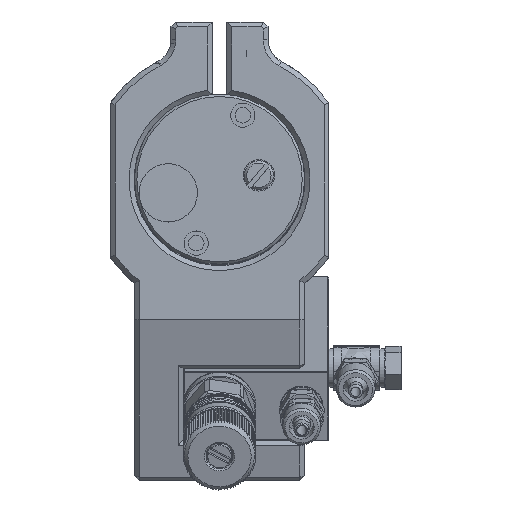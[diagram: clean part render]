
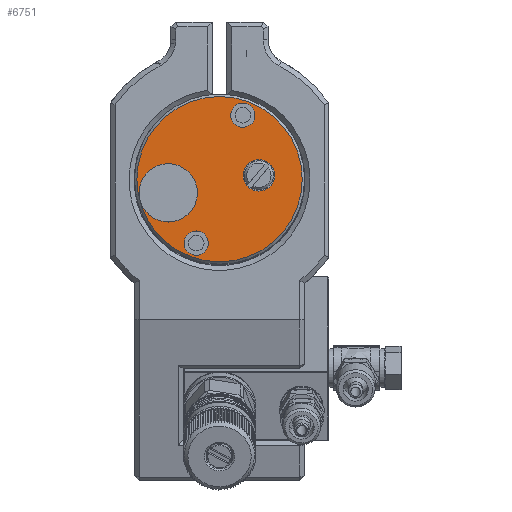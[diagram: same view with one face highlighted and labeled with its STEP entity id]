
A CAD part, top view. The second image highlights one B-rep face of the part: STEP entity #6751.
In plain terms, the highlighted planar face has unit normal (0, 0, 1).
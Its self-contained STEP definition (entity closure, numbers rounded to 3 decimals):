
#1207 = EDGE_CURVE ( 'NONE', #27649, #27649, #17318, .T. ) ;
#1462 = VERTEX_POINT ( 'NONE', #9512 ) ;
#4691 = DIRECTION ( 'NONE',  ( 1., 0., 0. ) ) ;
#4806 = DIRECTION ( 'NONE',  ( 1., 0., 0. ) ) ;
#5443 = EDGE_CURVE ( 'NONE', #1462, #1462, #46855, .T. ) ;
#5908 = AXIS2_PLACEMENT_3D ( 'NONE', #30937, #39014, #30689 ) ;
#6751 = ADVANCED_FACE ( 'NONE', ( #42481, #19304, #8200, #45070 ), #23576, .T. ) ;
#8081 = CARTESIAN_POINT ( 'NONE',  ( -79.067, 35.15, 120.533 ) ) ;
#8200 = FACE_BOUND ( 'NONE', #28008, .T. ) ;
#9128 = AXIS2_PLACEMENT_3D ( 'NONE', #48411, #16936, #48164 ) ;
#9512 = CARTESIAN_POINT ( 'NONE',  ( -76.567, 35.15, 120.533 ) ) ;
#10549 = DIRECTION ( 'NONE',  ( 0., 0., 1. ) ) ;
#12317 = EDGE_CURVE ( 'NONE', #27025, #27025, #30824, .T. ) ;
#12783 = DIRECTION ( 'NONE',  ( 1., 0., 0. ) ) ;
#15874 = DIRECTION ( 'NONE',  ( 0., 0., -1. ) ) ;
#16936 = DIRECTION ( 'NONE',  ( 0., 0., -1. ) ) ;
#17318 = CIRCLE ( 'NONE', #30961, 3.25 ) ;
#17433 = CARTESIAN_POINT ( 'NONE',  ( -83.856, 38.994, 120.533 ) ) ;
#17923 = EDGE_LOOP ( 'NONE', ( #44566 ) ) ;
#19304 = FACE_BOUND ( 'NONE', #21070, .T. ) ;
#19807 = CARTESIAN_POINT ( 'NONE',  ( -83.856, 21.994, 120.533 ) ) ;
#19863 = DIRECTION ( 'NONE',  ( 0., 0., -1. ) ) ;
#21070 = EDGE_LOOP ( 'NONE', ( #36478 ) ) ;
#23576 = PLANE ( 'NONE',  #24978 ) ;
#23599 = EDGE_CURVE ( 'NONE', #48918, #48918, #30807, .T. ) ;
#24978 = AXIS2_PLACEMENT_3D ( 'NONE', #19807, #10549, #4691 ) ;
#25401 = ORIENTED_EDGE ( 'NONE', *, *, #12317, .T. ) ;
#27025 = VERTEX_POINT ( 'NONE', #42411 ) ;
#27649 = VERTEX_POINT ( 'NONE', #43025 ) ;
#28008 = EDGE_LOOP ( 'NONE', ( #42228 ) ) ;
#29582 = EDGE_LOOP ( 'NONE', ( #25401 ) ) ;
#30689 = DIRECTION ( 'NONE',  ( 0., 1., 0. ) ) ;
#30807 = CIRCLE ( 'NONE', #5908, 17. ) ;
#30824 = CIRCLE ( 'NONE', #9128, 2.5 ) ;
#30937 = CARTESIAN_POINT ( 'NONE',  ( -83.856, 21.994, 120.533 ) ) ;
#30961 = AXIS2_PLACEMENT_3D ( 'NONE', #47308, #19863, #12783 ) ;
#36478 = ORIENTED_EDGE ( 'NONE', *, *, #1207, .T. ) ;
#39014 = DIRECTION ( 'NONE',  ( 0., 0., -1. ) ) ;
#41203 = AXIS2_PLACEMENT_3D ( 'NONE', #8081, #15874, #4806 ) ;
#42228 = ORIENTED_EDGE ( 'NONE', *, *, #5443, .T. ) ;
#42411 = CARTESIAN_POINT ( 'NONE',  ( -86.144, 8.838, 120.533 ) ) ;
#42481 = FACE_OUTER_BOUND ( 'NONE', #17923, .T. ) ;
#43025 = CARTESIAN_POINT ( 'NONE',  ( -72.505, 22.791, 120.533 ) ) ;
#44566 = ORIENTED_EDGE ( 'NONE', *, *, #23599, .F. ) ;
#45070 = FACE_BOUND ( 'NONE', #29582, .T. ) ;
#46855 = CIRCLE ( 'NONE', #41203, 2.5 ) ;
#47308 = CARTESIAN_POINT ( 'NONE',  ( -75.755, 22.791, 120.533 ) ) ;
#48164 = DIRECTION ( 'NONE',  ( 1., 0., 0. ) ) ;
#48411 = CARTESIAN_POINT ( 'NONE',  ( -88.644, 8.838, 120.533 ) ) ;
#48918 = VERTEX_POINT ( 'NONE', #17433 ) ;
